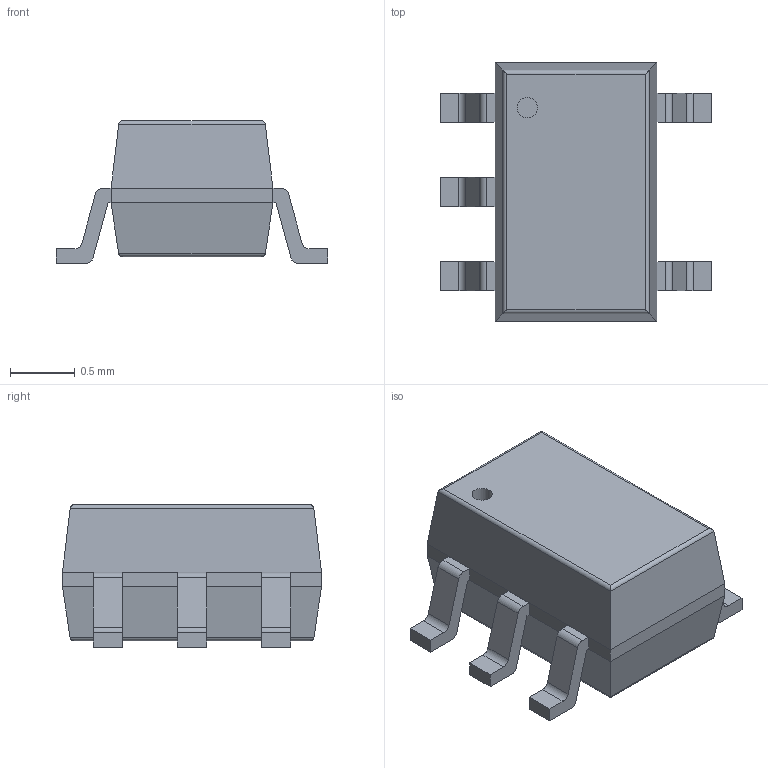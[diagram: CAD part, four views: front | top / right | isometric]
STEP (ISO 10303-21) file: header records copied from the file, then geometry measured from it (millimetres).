
FILE_DESCRIPTION(('FreeCAD Model'),'2;1');
FILE_NAME('/var/www/3D/0T/381841.1.1.stp','2018-01-10T22:40:03',( 'Author'),(''),'Open CASCADE STEP processor 6.8','FreeCAD','Unknown' );
FILE_SCHEMA(('AUTOMOTIVE_DESIGN_CC2 { 1 2 10303 214 -1 1 5 4 }'));
Length unit declared in the file: millimetre
Products named in the file (4): ASSEMBLY; Body; PinsArrayL; PinsArrayR
Assembly tree (3 placements, depth 2):
  ASSEMBLY
    Body
    PinsArrayL
    PinsArrayR
Bounding box: 2.1 x 2 x 1.1 mm (x, y, z)
Volume: 2.5 mm3; surface area: 13.6 mm2
Topology: 6 solids, 6 shells, 89 faces, 212 edges, 136 vertices
Faces by surface type: plane 65, cylinder 24
Full cylindrical faces by diameter (mm): 0.156 x1
Entity records: 5541 total; most frequent: CARTESIAN_POINT 1099, DIRECTION 820, LINE 538, VECTOR 538, ORIENTED_EDGE 424, PCURVE 424, DEFINITIONAL_REPRESENTATION 424, EDGE_CURVE 212
